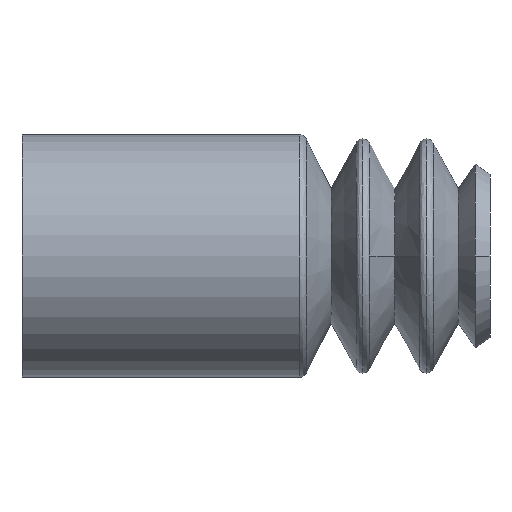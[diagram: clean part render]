
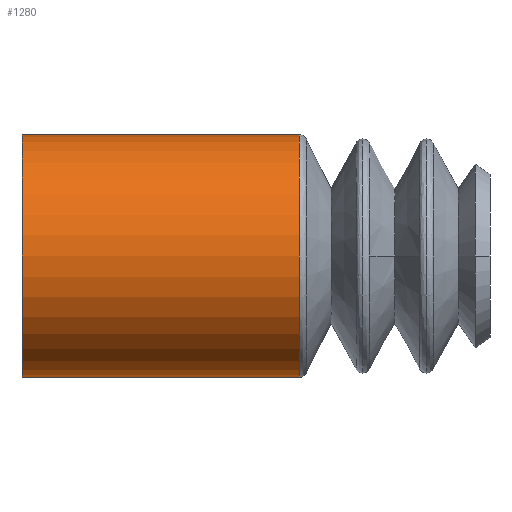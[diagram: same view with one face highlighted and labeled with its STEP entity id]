
A CAD part, left-side view. The second image highlights one B-rep face of the part: STEP entity #1280.
In plain terms, the highlighted cylindrical face has radius 3.5 mm (diameter 7 mm), a partial arc.
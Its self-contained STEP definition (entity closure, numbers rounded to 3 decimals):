
#102 = LINE ( 'NONE', #307, #1069 ) ;
#132 = CARTESIAN_POINT ( 'NONE',  ( 0., 0., 3.5 ) ) ;
#136 = EDGE_CURVE ( 'NONE', #1113, #1225, #1487, .T. ) ;
#152 = DIRECTION ( 'NONE',  ( 0., 1., 0. ) ) ;
#165 = DIRECTION ( 'NONE',  ( 0., 0., 1. ) ) ;
#167 = ORIENTED_EDGE ( 'NONE', *, *, #260, .T. ) ;
#225 = ORIENTED_EDGE ( 'NONE', *, *, #136, .F. ) ;
#260 = EDGE_CURVE ( 'NONE', #705, #1225, #811, .T. ) ;
#279 = VERTEX_POINT ( 'NONE', #733 ) ;
#284 = CARTESIAN_POINT ( 'NONE',  ( 0., 0., -3.5 ) ) ;
#307 = CARTESIAN_POINT ( 'NONE',  ( 0., -8., -3.5 ) ) ;
#324 = CARTESIAN_POINT ( 'NONE',  ( 0., 0., 0. ) ) ;
#350 = DIRECTION ( 'NONE',  ( 1., 0., 0. ) ) ;
#376 = EDGE_CURVE ( 'NONE', #705, #279, #1343, .T. ) ;
#408 = ORIENTED_EDGE ( 'NONE', *, *, #783, .F. ) ;
#444 = DIRECTION ( 'NONE',  ( 0., 1., 0. ) ) ;
#470 = VECTOR ( 'NONE', #152, 1000. ) ;
#705 = VERTEX_POINT ( 'NONE', #1379 ) ;
#733 = CARTESIAN_POINT ( 'NONE',  ( 0., -8., -3.5 ) ) ;
#783 = EDGE_CURVE ( 'NONE', #279, #1113, #102, .T. ) ;
#811 = LINE ( 'NONE', #1279, #470 ) ;
#813 = DIRECTION ( 'NONE',  ( 0., 0., 1. ) ) ;
#928 = CARTESIAN_POINT ( 'NONE',  ( 0., -8., 0. ) ) ;
#930 = CARTESIAN_POINT ( 'NONE',  ( 0., -8., 0. ) ) ;
#931 = AXIS2_PLACEMENT_3D ( 'NONE', #324, #1256, #165 ) ;
#1060 = AXIS2_PLACEMENT_3D ( 'NONE', #930, #1402, #350 ) ;
#1069 = VECTOR ( 'NONE', #444, 1000. ) ;
#1113 = VERTEX_POINT ( 'NONE', #284 ) ;
#1140 = AXIS2_PLACEMENT_3D ( 'NONE', #928, #1151, #813 ) ;
#1151 = DIRECTION ( 'NONE',  ( 0., 1., 0. ) ) ;
#1169 = FACE_OUTER_BOUND ( 'NONE', #1236, .T. ) ;
#1225 = VERTEX_POINT ( 'NONE', #132 ) ;
#1236 = EDGE_LOOP ( 'NONE', ( #408, #1437, #167, #225 ) ) ;
#1256 = DIRECTION ( 'NONE',  ( 0., 1., 0. ) ) ;
#1279 = CARTESIAN_POINT ( 'NONE',  ( 0., -8., 3.5 ) ) ;
#1280 = ADVANCED_FACE ( 'NONE', ( #1169 ), #1509, .T. ) ;
#1343 = CIRCLE ( 'NONE', #1060, 3.5 ) ;
#1379 = CARTESIAN_POINT ( 'NONE',  ( 0., -8., 3.5 ) ) ;
#1402 = DIRECTION ( 'NONE',  ( 0., -1., 0. ) ) ;
#1437 = ORIENTED_EDGE ( 'NONE', *, *, #376, .F. ) ;
#1487 = CIRCLE ( 'NONE', #931, 3.5 ) ;
#1509 = CYLINDRICAL_SURFACE ( 'NONE', #1140, 3.5 ) ;
